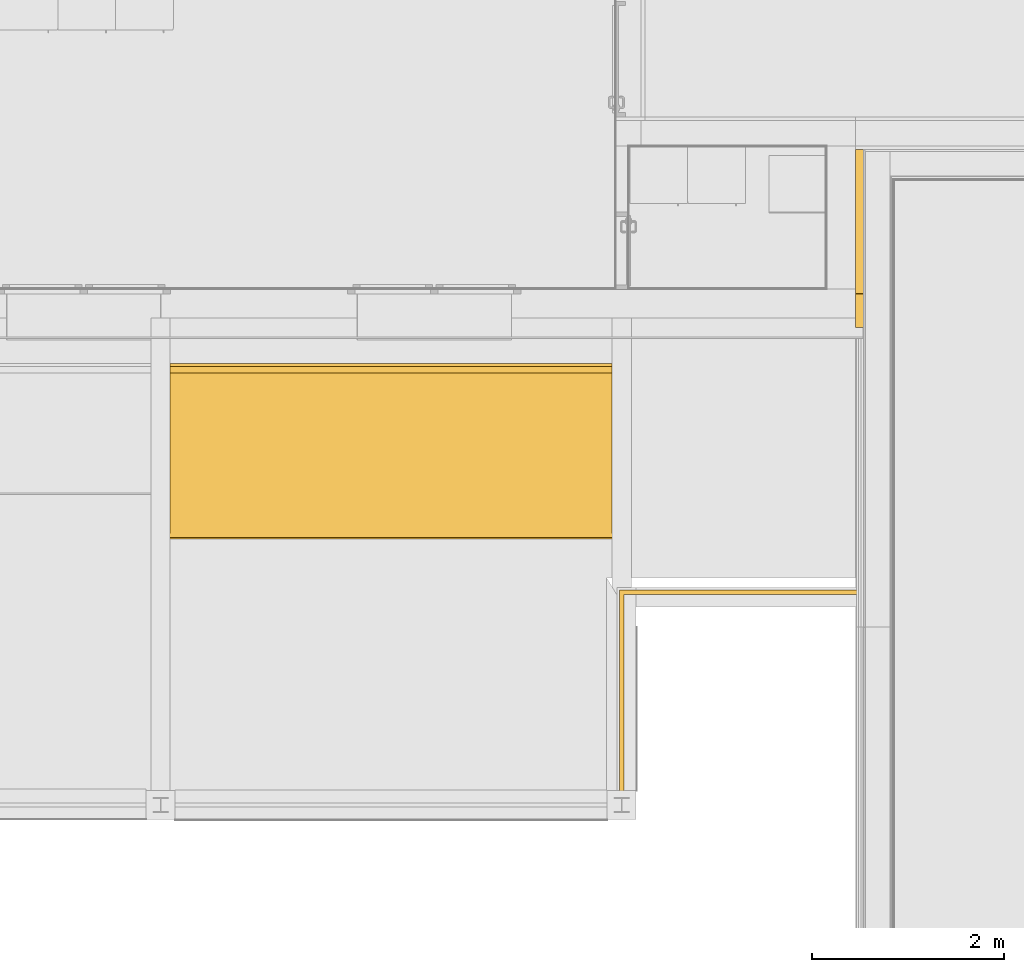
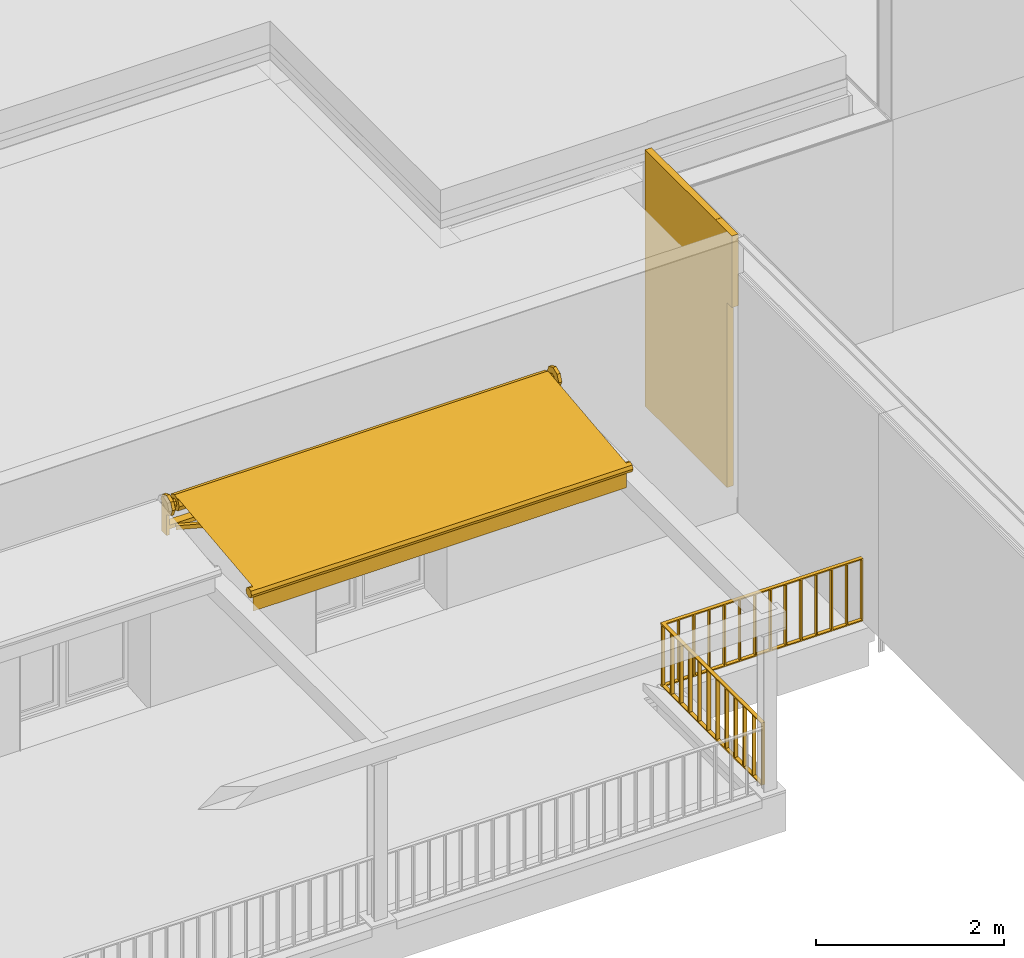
# One storey, part 27 of 36: 1 covering, 1 railing, 1 shading device.
"""IFC4 building model written with IfcOpenShell, lengths in millimetres."""

from ifc_helpers import new_model, entity, si_unit, converted_unit, derived_unit, direction, frame, origin_with_axes, place, context, subcontext, project, spatial, polygons, material, constituent, constituent_set, type_object, element, save


model = new_model("IFC4")

# Units and contexts
model_context = context("Model", 3, precision=0.01, world=origin_with_axes(), true_north=direction((0.0, 1.0)))
body_context = subcontext(model_context, "Body", "Model", "MODEL_VIEW")
ifc_project = project(units=[si_unit("LENGTHUNIT", "METRE", prefix="MILLI"), si_unit("AREAUNIT", "SQUARE_METRE"), si_unit("VOLUMEUNIT", "CUBIC_METRE"), converted_unit("PLANEANGLEUNIT", "DEGREE", entity("IfcPlaneAngleMeasure", 0.0174532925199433), si_unit("PLANEANGLEUNIT", "RADIAN"), dimensions=[0, 0, 0, 0, 0, 0, 0]), converted_unit("TIMEUNIT", "Year", entity("IfcTimeMeasure", 31557600.0), si_unit("TIMEUNIT", "SECOND"), dimensions=[0, 0, 1, 0, 0, 0, 0]), si_unit("MASSUNIT", "GRAM", prefix="KILO"), si_unit("THERMODYNAMICTEMPERATUREUNIT", "DEGREE_CELSIUS"), si_unit("LUMINOUSINTENSITYUNIT", "LUMEN"), si_unit("ENERGYUNIT", "JOULE", prefix="MEGA"), derived_unit("THERMALCONDUCTANCEUNIT", [(si_unit("POWERUNIT", "WATT"), 1), (si_unit("LENGTHUNIT", "METRE"), -1), (si_unit("THERMODYNAMICTEMPERATUREUNIT", "KELVIN"), -1)]), derived_unit("SPECIFICHEATCAPACITYUNIT", [(si_unit("ENERGYUNIT", "JOULE"), 1), (si_unit("MASSUNIT", "GRAM", prefix="KILO"), -1), (si_unit("THERMODYNAMICTEMPERATUREUNIT", "KELVIN"), -1)]), derived_unit("MASSDENSITYUNIT", [(si_unit("MASSUNIT", "GRAM", prefix="KILO"), 1), (si_unit("VOLUMEUNIT", "CUBIC_METRE"), -1)])], contexts=[model_context])

# Site, building, storey
site_placement = place(None, origin_with_axes())
site = spatial("IfcSite", under=ifc_project, at=site_placement, Name="Gelände", CompositionType="ELEMENT")
building_placement = place(site_placement, origin_with_axes())
building = spatial("IfcBuilding", under=site, at=building_placement, Name="Gebäude", CompositionType="ELEMENT")
storey_placement = place(building_placement, frame((0.0, 0.0, 8700.0), z_axis=(0.0, 0.0, 1.0), x_axis=(1.0, 0.0, 0.0)))
storey = spatial("IfcBuildingStorey", under=building, at=storey_placement, Name="Attika", CompositionType="ELEMENT", Elevation=8700.0)

# Railing
ifc_material_1 = material(Name="Stahl")
ifc_constituent_1 = constituent(ifc_material_1, Name="Stahl 1")
ifc_constituent_2 = constituent(ifc_material_1, Name="Stahl 2")
ifc_constituent_3 = constituent(ifc_material_1, Name="Stahl 3")
ifc_constituent_4 = constituent(ifc_material_1, Name="Stahl 4")
ifc_constituent_5 = constituent(ifc_material_1, Name="Stahl 5")
ifc_constituent_6 = constituent(ifc_material_1, Name="Stahl 6")
ifc_constituent_7 = constituent(ifc_material_1, Name="Stahl 7")
ifc_constituent_8 = constituent(ifc_material_1, Name="Stahl 8")
ifc_constituent_9 = constituent(ifc_material_1, Name="Stahl 9")
ifc_constituent_10 = constituent(ifc_material_1, Name="Stahl 10")
ifc_constituent_11 = constituent(ifc_material_1, Name="Stahl 11")
ifc_constituent_12 = constituent(ifc_material_1, Name="Stahl 12")
ifc_constituent_13 = constituent(ifc_material_1, Name="Stahl 13")
ifc_constituent_14 = constituent(ifc_material_1, Name="Stahl 14")
ifc_constituent_15 = constituent(ifc_material_1, Name="Stahl 15")
ifc_constituent_16 = constituent(ifc_material_1, Name="Stahl 16")
ifc_constituent_17 = constituent(ifc_material_1, Name="Stahl 17")
ifc_constituent_18 = constituent(ifc_material_1, Name="Stahl 18")
ifc_constituent_19 = constituent(ifc_material_1, Name="Stahl 19")
ifc_constituent_20 = constituent(ifc_material_1, Name="Stahl 20")
ifc_constituent_21 = constituent(ifc_material_1, Name="Stahl 21")
ifc_constituent_22 = constituent(ifc_material_1, Name="Stahl 22")
ifc_constituent_23 = constituent(ifc_material_1, Name="Stahl 23")
ifc_constituent_24 = constituent(ifc_material_1, Name="Stahl 24")
ifc_constituent_25 = constituent(ifc_material_1, Name="Stahl 25")
ifc_constituent_26 = constituent(ifc_material_1, Name="Stahl 26")
ifc_constituent_27 = constituent(ifc_material_1, Name="Stahl 27")
ifc_constituent_28 = constituent(ifc_material_1, Name="Stahl 28")
ifc_constituent_29 = constituent(ifc_material_1, Name="Stahl 29")
ifc_constituent_30 = constituent(ifc_material_1, Name="Stahl 30")
ifc_constituent_31 = constituent(ifc_material_1, Name="Stahl 31")
ifc_constituent_set = constituent_set(constituents=[ifc_constituent_1, ifc_constituent_2, ifc_constituent_3, ifc_constituent_4, ifc_constituent_5, ifc_constituent_6, ifc_constituent_7, ifc_constituent_8, ifc_constituent_9, ifc_constituent_10, ifc_constituent_11, ifc_constituent_12, ifc_constituent_13, ifc_constituent_14, ifc_constituent_15, ifc_constituent_16, ifc_constituent_17, ifc_constituent_18, ifc_constituent_19, ifc_constituent_20, ifc_constituent_21, ifc_constituent_22, ifc_constituent_23, ifc_constituent_24, ifc_constituent_25, ifc_constituent_26, ifc_constituent_27, ifc_constituent_28, ifc_constituent_29, ifc_constituent_30, ifc_constituent_31])
railing_type = type_object("IfcRailingType", Name="Geländerart", PredefinedType="NOTDEFINED")
railing_placement = place(storey_placement, frame((15487.99581849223, 21105.09674077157, 519.9999999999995), z_axis=(0.0, 0.0, 1.0), x_axis=(1.0, 0.0, 0.0)))
element("IfcRailing", 1, at=railing_placement, inside=storey, type_object=railing_type, material=ifc_constituent_set, Name="Geländer-003", PredefinedType="NOTDEFINED", context=body_context, shape_type="Tessellation", body=[
    polygons([(19.99999999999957, 83.49999999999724, 0.0), (-19.99999999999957, 83.49999999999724, 0.0), (-19.99999999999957, 83.49999999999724, 800.0000000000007), (19.99999999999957, 83.49999999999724, 800.0000000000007), (19.99999999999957, 68.49999999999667, 0.0), (-19.99999999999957, 68.49999999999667, 0.0), (-19.99999999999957, 68.49999999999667, 800.0000000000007), (19.99999999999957, 68.49999999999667, 800.0000000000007)], [[[1, 2, 3, 4]], [[1, 5, 6, 2]], [[2, 6, 7, 3]], [[4, 3, 7, 8]], [[5, 1, 4, 8]], [[6, 5, 8, 7]]], closed=True),
    polygons([(-22.50000000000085, 75.99999999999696, 800.0000000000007), (-22.50000000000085, 75.99999999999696, 785.0000000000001), (-22.50000000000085, 68.49999999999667, 785.0000000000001), (-22.50000000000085, 68.49999999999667, 800.0000000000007), (22.50000000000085, 75.99999999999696, 800.0000000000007), (22.50000000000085, 75.99999999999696, 785.0000000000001), (22.50000000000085, 68.49999999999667, 785.0000000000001), (22.50000000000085, 68.49999999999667, 800.0000000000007)], [[[1, 2, 3, 4]], [[1, 5, 6, 2]], [[2, 6, 7, 3]], [[4, 3, 7, 8]], [[5, 1, 4, 8]], [[6, 5, 8, 7]]], closed=True),
    polygons([(19.9999999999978, 2210.000000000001, 0.0), (-20.00000000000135, 2210.000000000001, 0.0), (-20.00000000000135, 2210.000000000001, 800.0000000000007), (19.9999999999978, 2210.000000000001, 800.0000000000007), (19.9999999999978, 2195.0, 0.0), (-20.00000000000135, 2195.0, 0.0), (-20.00000000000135, 2195.0, 800.0000000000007), (19.9999999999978, 2195.0, 800.0000000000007)], [[[1, 2, 3, 4]], [[1, 5, 6, 2]], [[2, 6, 7, 3]], [[4, 3, 7, 8]], [[5, 1, 4, 8]], [[6, 5, 8, 7]]], closed=True),
    polygons([(2448.501626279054, 2182.500000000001, 0.0), (2448.501626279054, 2222.5, 0.0), (2448.501626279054, 2222.5, 800.0000000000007), (2448.501626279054, 2182.500000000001, 800.0000000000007), (2433.501626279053, 2182.500000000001, 0.0), (2433.501626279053, 2222.5, 0.0), (2433.501626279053, 2222.5, 800.0000000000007), (2433.501626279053, 2182.500000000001, 800.0000000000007)], [[[1, 2, 3, 4]], [[1, 5, 6, 2]], [[2, 6, 7, 3]], [[4, 3, 7, 8]], [[5, 1, 4, 8]], [[6, 5, 8, 7]]], closed=True),
    polygons([(2441.001626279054, 2180.0, 800.0000000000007), (2441.001626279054, 2180.0, 785.0000000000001), (2448.501626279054, 2180.0, 785.0000000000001), (2448.501626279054, 2180.0, 800.0000000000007), (2441.001626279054, 2225.000000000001, 800.0000000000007), (2441.001626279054, 2225.000000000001, 785.0000000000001), (2448.501626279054, 2225.000000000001, 785.0000000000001), (2448.501626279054, 2225.000000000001, 800.0000000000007)], [[[1, 2, 3, 4]], [[1, 5, 6, 2]], [[2, 6, 7, 3]], [[4, 3, 7, 8]], [[5, 1, 4, 8]], [[6, 5, 8, 7]]], closed=True),
    polygons([(22.50000000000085, 75.99999999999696, 0.9999999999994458), (22.50000000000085, 75.99999999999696, -14.00000000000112), (22.49999999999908, 2180.0, -14.00000000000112), (22.49999999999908, 2180.0, 0.9999999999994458), (-22.50000000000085, 75.99999999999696, 0.9999999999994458), (-22.50000000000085, 75.99999999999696, -14.00000000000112), (-22.50000000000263, 2225.000000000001, -14.00000000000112), (-22.50000000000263, 2225.000000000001, 0.9999999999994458)], [[[1, 2, 3, 4]], [[1, 5, 6, 2]], [[2, 6, 7, 3]], [[4, 3, 7, 8]], [[5, 1, 4, 8]], [[6, 5, 8, 7]]], closed=True),
    polygons([(22.50000000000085, 75.99999999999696, 800.0000000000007), (22.50000000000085, 75.99999999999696, 785.0000000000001), (22.49999999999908, 2180.0, 785.0000000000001), (22.49999999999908, 2180.0, 800.0000000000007), (-22.50000000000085, 75.99999999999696, 800.0000000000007), (-22.50000000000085, 75.99999999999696, 785.0000000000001), (-22.50000000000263, 2225.000000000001, 785.0000000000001), (-22.50000000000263, 2225.000000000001, 800.0000000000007)], [[[1, 2, 3, 4]], [[1, 5, 6, 2]], [[2, 6, 7, 3]], [[4, 3, 7, 8]], [[5, 1, 4, 8]], [[6, 5, 8, 7]]], closed=True),
    polygons([(22.50000000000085, 276.8181818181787, 0.0), (-22.50000000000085, 276.8181818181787, 0.0), (-22.50000000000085, 276.8181818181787, 785.2293691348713), (22.49999999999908, 276.8181818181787, 785.2293691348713), (22.50000000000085, 261.8181818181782, 0.0), (-22.50000000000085, 261.8181818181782, 0.0), (-22.50000000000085, 261.8181818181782, 785.2293691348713), (22.50000000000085, 261.8181818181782, 785.2293691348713)], [[[1, 2, 3, 4]], [[1, 5, 6, 2]], [[2, 6, 7, 3]], [[4, 3, 7, 8]], [[5, 1, 4, 8]], [[6, 5, 8, 7]]], closed=True),
    polygons([(22.50000000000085, 470.1363636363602, 0.0), (-22.50000000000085, 470.1363636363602, 0.0), (-22.50000000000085, 470.1363636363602, 785.2293691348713), (22.49999999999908, 470.1363636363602, 785.2293691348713), (22.50000000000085, 455.1363636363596, 0.0), (-22.50000000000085, 455.1363636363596, 0.0), (-22.50000000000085, 455.1363636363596, 785.2293691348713), (22.50000000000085, 455.1363636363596, 785.2293691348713)], [[[1, 2, 3, 4]], [[1, 5, 6, 2]], [[2, 6, 7, 3]], [[4, 3, 7, 8]], [[5, 1, 4, 8]], [[6, 5, 8, 7]]], closed=True),
    polygons([(22.50000000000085, 663.4545454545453, 0.0), (-22.50000000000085, 663.4545454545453, 0.0), (-22.50000000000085, 663.4545454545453, 785.2293691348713), (22.49999999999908, 663.4545454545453, 785.2293691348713), (22.50000000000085, 648.4545454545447, 0.0), (-22.50000000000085, 648.4545454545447, 0.0), (-22.50000000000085, 648.4545454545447, 785.2293691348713), (22.50000000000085, 648.4545454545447, 785.2293691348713)], [[[1, 2, 3, 4]], [[1, 5, 6, 2]], [[2, 6, 7, 3]], [[4, 3, 7, 8]], [[5, 1, 4, 8]], [[6, 5, 8, 7]]], closed=True),
    polygons([(22.50000000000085, 856.7727272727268, 0.0), (-22.50000000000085, 856.7727272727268, 0.0), (-22.50000000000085, 856.7727272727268, 785.2293691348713), (22.49999999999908, 856.7727272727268, 785.2293691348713), (22.50000000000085, 841.7727272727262, 0.0), (-22.50000000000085, 841.7727272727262, 0.0), (-22.50000000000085, 841.7727272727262, 785.2293691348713), (22.50000000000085, 841.7727272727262, 785.2293691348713)], [[[1, 2, 3, 4]], [[1, 5, 6, 2]], [[2, 6, 7, 3]], [[4, 3, 7, 8]], [[5, 1, 4, 8]], [[6, 5, 8, 7]]], closed=True),
    polygons([(22.50000000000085, 1050.090909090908, 0.0), (-22.50000000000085, 1050.090909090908, 0.0), (-22.50000000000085, 1050.090909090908, 785.2293691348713), (22.49999999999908, 1050.090909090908, 785.2293691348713), (22.50000000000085, 1035.090909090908, 0.0), (-22.50000000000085, 1035.090909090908, 0.0), (-22.50000000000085, 1035.090909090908, 785.2293691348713), (22.50000000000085, 1035.090909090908, 785.2293691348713)], [[[1, 2, 3, 4]], [[1, 5, 6, 2]], [[2, 6, 7, 3]], [[4, 3, 7, 8]], [[5, 1, 4, 8]], [[6, 5, 8, 7]]], closed=True),
    polygons([(22.49999999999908, 1243.40909090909, 0.0), (-22.50000000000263, 1243.40909090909, 0.0), (-22.50000000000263, 1243.40909090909, 785.2293691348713), (22.4999999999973, 1243.40909090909, 785.2293691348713), (22.49999999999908, 1228.409090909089, 0.0), (-22.50000000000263, 1228.409090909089, 0.0), (-22.50000000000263, 1228.409090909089, 785.2293691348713), (22.4999999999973, 1228.409090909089, 785.2293691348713)], [[[1, 2, 3, 4]], [[1, 5, 6, 2]], [[2, 6, 7, 3]], [[4, 3, 7, 8]], [[5, 1, 4, 8]], [[6, 5, 8, 7]]], closed=True),
    polygons([(22.49999999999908, 1436.727272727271, 0.0), (-22.50000000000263, 1436.727272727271, 0.0), (-22.50000000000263, 1436.727272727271, 785.2293691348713), (22.4999999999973, 1436.727272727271, 785.2293691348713), (22.49999999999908, 1421.727272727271, 0.0), (-22.50000000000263, 1421.727272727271, 0.0), (-22.50000000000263, 1421.727272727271, 785.2293691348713), (22.4999999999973, 1421.727272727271, 785.2293691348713)], [[[1, 2, 3, 4]], [[1, 5, 6, 2]], [[2, 6, 7, 3]], [[4, 3, 7, 8]], [[5, 1, 4, 8]], [[6, 5, 8, 7]]], closed=True),
    polygons([(22.49999999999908, 1630.045454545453, 0.0), (-22.50000000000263, 1630.045454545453, 0.0), (-22.50000000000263, 1630.045454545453, 785.2293691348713), (22.4999999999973, 1630.045454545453, 785.2293691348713), (22.49999999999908, 1615.045454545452, 0.0), (-22.50000000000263, 1615.045454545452, 0.0), (-22.50000000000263, 1615.045454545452, 785.2293691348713), (22.4999999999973, 1615.045454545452, 785.2293691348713)], [[[1, 2, 3, 4]], [[1, 5, 6, 2]], [[2, 6, 7, 3]], [[4, 3, 7, 8]], [[5, 1, 4, 8]], [[6, 5, 8, 7]]], closed=True),
    polygons([(22.49999999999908, 1823.363636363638, 0.0), (-22.50000000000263, 1823.363636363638, 0.0), (-22.50000000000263, 1823.363636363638, 785.2293691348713), (22.4999999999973, 1823.363636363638, 785.2293691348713), (22.49999999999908, 1808.363636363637, 0.0), (-22.50000000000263, 1808.363636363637, 0.0), (-22.50000000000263, 1808.363636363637, 785.2293691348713), (22.4999999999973, 1808.363636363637, 785.2293691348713)], [[[1, 2, 3, 4]], [[1, 5, 6, 2]], [[2, 6, 7, 3]], [[4, 3, 7, 8]], [[5, 1, 4, 8]], [[6, 5, 8, 7]]], closed=True),
    polygons([(22.49999999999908, 2016.681818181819, 0.0), (-22.50000000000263, 2016.681818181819, 0.0), (-22.50000000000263, 2016.681818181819, 785.2293691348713), (22.4999999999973, 2016.681818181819, 785.2293691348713), (22.49999999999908, 2001.681818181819, 0.0), (-22.50000000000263, 2001.681818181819, 0.0), (-22.50000000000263, 2001.681818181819, 785.2293691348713), (22.4999999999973, 2001.681818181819, 785.2293691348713)], [[[1, 2, 3, 4]], [[1, 5, 6, 2]], [[2, 6, 7, 3]], [[4, 3, 7, 8]], [[5, 1, 4, 8]], [[6, 5, 8, 7]]], closed=True),
    polygons([(22.49999999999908, 2180.0, 0.9999999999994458), (22.49999999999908, 2180.0, -14.00000000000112), (2441.001626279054, 2180.0, -14.00000000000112), (2441.001626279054, 2180.0, 0.9999999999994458), (-22.50000000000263, 2225.000000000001, 0.9999999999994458), (-22.50000000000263, 2225.000000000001, -14.00000000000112), (2441.001626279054, 2225.000000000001, -14.00000000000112), (2441.001626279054, 2225.000000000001, 0.9999999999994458)], [[[1, 2, 3, 4]], [[1, 5, 6, 2]], [[2, 6, 7, 3]], [[4, 3, 7, 8]], [[5, 1, 4, 8]], [[6, 5, 8, 7]]], closed=True),
    polygons([(22.49999999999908, 2180.0, 800.0000000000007), (22.49999999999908, 2180.0, 785.0000000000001), (2441.001626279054, 2180.0, 785.0000000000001), (2441.001626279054, 2180.0, 800.0000000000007), (-22.50000000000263, 2225.000000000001, 800.0000000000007), (-22.50000000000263, 2225.000000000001, 785.0000000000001), (2441.001626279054, 2225.000000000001, 785.0000000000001), (2441.001626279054, 2225.000000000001, 800.0000000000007)], [[[1, 2, 3, 4]], [[1, 5, 6, 2]], [[2, 6, 7, 3]], [[4, 3, 7, 8]], [[5, 1, 4, 8]], [[6, 5, 8, 7]]], closed=True),
    polygons([(195.2693558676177, 2180.0, 0.0), (195.2693558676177, 2225.000000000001, 0.0), (195.2693558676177, 2225.000000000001, 785.2293691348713), (195.2693558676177, 2180.0, 785.2293691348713), (180.2693558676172, 2180.0, 0.0), (180.2693558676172, 2225.000000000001, 0.0), (180.2693558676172, 2225.000000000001, 785.2293691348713), (180.2693558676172, 2180.0, 785.2293691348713)], [[[1, 2, 3, 4]], [[1, 5, 6, 2]], [[2, 6, 7, 3]], [[4, 3, 7, 8]], [[5, 1, 4, 8]], [[6, 5, 8, 7]]], closed=True),
    polygons([(383.038711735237, 2180.0, 0.0), (383.038711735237, 2225.000000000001, 0.0), (383.038711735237, 2225.000000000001, 785.2293691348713), (383.038711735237, 2180.0, 785.2293691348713), (368.0387117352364, 2180.0, 0.0), (368.0387117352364, 2225.000000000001, 0.0), (368.0387117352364, 2225.000000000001, 785.2293691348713), (368.0387117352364, 2180.0, 785.2293691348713)], [[[1, 2, 3, 4]], [[1, 5, 6, 2]], [[2, 6, 7, 3]], [[4, 3, 7, 8]], [[5, 1, 4, 8]], [[6, 5, 8, 7]]], closed=True),
    polygons([(570.8080676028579, 2180.0, 0.0), (570.8080676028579, 2225.000000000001, 0.0), (570.8080676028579, 2225.000000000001, 785.2293691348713), (570.8080676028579, 2180.0, 785.2293691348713), (555.8080676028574, 2180.0, 0.0), (555.8080676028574, 2225.000000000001, 0.0), (555.8080676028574, 2225.000000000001, 785.2293691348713), (555.8080676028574, 2180.0, 785.2293691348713)], [[[1, 2, 3, 4]], [[1, 5, 6, 2]], [[2, 6, 7, 3]], [[4, 3, 7, 8]], [[5, 1, 4, 8]], [[6, 5, 8, 7]]], closed=True),
    polygons([(758.5774234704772, 2180.0, 0.0), (758.5774234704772, 2225.000000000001, 0.0), (758.5774234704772, 2225.000000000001, 785.2293691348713), (758.5774234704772, 2180.0, 785.2293691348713), (743.5774234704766, 2180.0, 0.0), (743.5774234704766, 2225.000000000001, 0.0), (743.5774234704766, 2225.000000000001, 785.2293691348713), (743.5774234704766, 2180.0, 785.2293691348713)], [[[1, 2, 3, 4]], [[1, 5, 6, 2]], [[2, 6, 7, 3]], [[4, 3, 7, 8]], [[5, 1, 4, 8]], [[6, 5, 8, 7]]], closed=True),
    polygons([(946.3467793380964, 2180.0, 0.0), (946.3467793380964, 2225.000000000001, 0.0), (946.3467793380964, 2225.000000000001, 785.2293691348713), (946.3467793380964, 2180.0, 785.2293691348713), (931.3467793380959, 2180.0, 0.0), (931.3467793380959, 2225.000000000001, 0.0), (931.3467793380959, 2225.000000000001, 785.2293691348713), (931.3467793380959, 2180.0, 785.2293691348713)], [[[1, 2, 3, 4]], [[1, 5, 6, 2]], [[2, 6, 7, 3]], [[4, 3, 7, 8]], [[5, 1, 4, 8]], [[6, 5, 8, 7]]], closed=True),
    polygons([(1134.116135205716, 2180.0, 0.0), (1134.116135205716, 2225.000000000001, 0.0), (1134.116135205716, 2225.000000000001, 785.2293691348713), (1134.116135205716, 2180.0, 785.2293691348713), (1119.116135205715, 2180.0, 0.0), (1119.116135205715, 2225.000000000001, 0.0), (1119.116135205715, 2225.000000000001, 785.2293691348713), (1119.116135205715, 2180.0, 785.2293691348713)], [[[1, 2, 3, 4]], [[1, 5, 6, 2]], [[2, 6, 7, 3]], [[4, 3, 7, 8]], [[5, 1, 4, 8]], [[6, 5, 8, 7]]], closed=True),
    polygons([(1321.885491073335, 2180.0, 0.0), (1321.885491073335, 2225.000000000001, 0.0), (1321.885491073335, 2225.000000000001, 785.2293691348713), (1321.885491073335, 2180.0, 785.2293691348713), (1306.885491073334, 2180.0, 0.0), (1306.885491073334, 2225.000000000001, 0.0), (1306.885491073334, 2225.000000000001, 785.2293691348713), (1306.885491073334, 2180.0, 785.2293691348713)], [[[1, 2, 3, 4]], [[1, 5, 6, 2]], [[2, 6, 7, 3]], [[4, 3, 7, 8]], [[5, 1, 4, 8]], [[6, 5, 8, 7]]], closed=True),
    polygons([(1509.654846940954, 2180.0, 0.0), (1509.654846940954, 2225.000000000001, 0.0), (1509.654846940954, 2225.000000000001, 785.2293691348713), (1509.654846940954, 2180.0, 785.2293691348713), (1494.654846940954, 2180.0, 0.0), (1494.654846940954, 2225.000000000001, 0.0), (1494.654846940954, 2225.000000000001, 785.2293691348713), (1494.654846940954, 2180.0, 785.2293691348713)], [[[1, 2, 3, 4]], [[1, 5, 6, 2]], [[2, 6, 7, 3]], [[4, 3, 7, 8]], [[5, 1, 4, 8]], [[6, 5, 8, 7]]], closed=True),
    polygons([(1697.424202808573, 2180.0, 0.0), (1697.424202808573, 2225.000000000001, 0.0), (1697.424202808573, 2225.000000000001, 785.2293691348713), (1697.424202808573, 2180.0, 785.2293691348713), (1682.424202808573, 2180.0, 0.0), (1682.424202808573, 2225.000000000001, 0.0), (1682.424202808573, 2225.000000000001, 785.2293691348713), (1682.424202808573, 2180.0, 785.2293691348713)], [[[1, 2, 3, 4]], [[1, 5, 6, 2]], [[2, 6, 7, 3]], [[4, 3, 7, 8]], [[5, 1, 4, 8]], [[6, 5, 8, 7]]], closed=True),
    polygons([(1885.193558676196, 2180.0, 0.0), (1885.193558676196, 2225.000000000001, 0.0), (1885.193558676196, 2225.000000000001, 785.2293691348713), (1885.193558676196, 2180.0, 785.2293691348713), (1870.193558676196, 2180.0, 0.0), (1870.193558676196, 2225.000000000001, 0.0), (1870.193558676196, 2225.000000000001, 785.2293691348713), (1870.193558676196, 2180.0, 785.2293691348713)], [[[1, 2, 3, 4]], [[1, 5, 6, 2]], [[2, 6, 7, 3]], [[4, 3, 7, 8]], [[5, 1, 4, 8]], [[6, 5, 8, 7]]], closed=True),
    polygons([(2072.962914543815, 2180.0, 0.0), (2072.962914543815, 2225.000000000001, 0.0), (2072.962914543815, 2225.000000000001, 785.2293691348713), (2072.962914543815, 2180.0, 785.2293691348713), (2057.962914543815, 2180.0, 0.0), (2057.962914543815, 2225.000000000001, 0.0), (2057.962914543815, 2225.000000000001, 785.2293691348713), (2057.962914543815, 2180.0, 785.2293691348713)], [[[1, 2, 3, 4]], [[1, 5, 6, 2]], [[2, 6, 7, 3]], [[4, 3, 7, 8]], [[5, 1, 4, 8]], [[6, 5, 8, 7]]], closed=True),
    polygons([(2260.732270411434, 2180.0, 0.0), (2260.732270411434, 2225.000000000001, 0.0), (2260.732270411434, 2225.000000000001, 785.2293691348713), (2260.732270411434, 2180.0, 785.2293691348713), (2245.732270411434, 2180.0, 0.0), (2245.732270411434, 2225.000000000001, 0.0), (2245.732270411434, 2225.000000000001, 785.2293691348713), (2245.732270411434, 2180.0, 785.2293691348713)], [[[1, 2, 3, 4]], [[1, 5, 6, 2]], [[2, 6, 7, 3]], [[4, 3, 7, 8]], [[5, 1, 4, 8]], [[6, 5, 8, 7]]], closed=True),
])

# Covering
ifc_material_2 = material(Name="Dämmung-Innen")
covering_type = type_object("IfcCoveringType", Name="Dämmung-Innen 80", PredefinedType="NOTDEFINED")
covering_placement = place(storey_placement, frame((17919.99744477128, 27907.59728131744, 499.9999480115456), z_axis=(0.0, 0.0, 1.0), x_axis=(0.0, -1.0, 0.0)))
element("IfcCovering", 2, at=covering_placement, inside=storey, type_object=covering_type, material=ifc_material_2, Name="Wand-014", PredefinedType="NOTDEFINED", context=body_context, shape_type="Tessellation", body=[
    polygons([(0.0, 0.0, 3331.000051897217), (1497.300449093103, 0.0, 3331.000051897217), (1497.300449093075, 79.99999999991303, 3331.000051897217), (0.0, 80.00000000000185, 3331.000051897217), (1500.000452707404, 0.0, 3233.526807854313), (1497.300408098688, 0.0, 3233.526807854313), (0.0, 0.0, 0.0), (1750.000540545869, 0.0, 0.0), (1750.000540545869, 0.0, 2400.000051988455), (1850.000540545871, 0.0, 2400.000051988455), (1850.000540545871, 0.0, 3331.000051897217), (1500.000543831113, 0.0, 3331.000053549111), (1497.30040809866, 79.99999999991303, 3233.526807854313), (1500.000452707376, 79.99999999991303, 3233.526807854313), (1500.000543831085, 79.99999999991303, 3331.000053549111), (1850.000540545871, 79.9999999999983, 3331.000051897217), (1850.000540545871, 80.00000000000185, 2400.000051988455), (1750.000540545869, 80.00000000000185, 2400.000051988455), (1750.000540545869, 79.9999999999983, 0.0), (0.0, 79.9999999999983, 0.0)], [[[1, 2, 3, 4]], [[5, 6, 2, 1, 7, 8, 9, 10, 11, 12]], [[6, 13, 3, 2]], [[13, 14, 15, 16, 17, 18, 19, 20, 4, 3]], [[1, 4, 20, 7]], [[5, 14, 13, 6]], [[8, 7, 20, 19]], [[18, 9, 8, 19]], [[17, 10, 9, 18]], [[17, 16, 11, 10]], [[16, 15, 12, 11]], [[5, 12, 15, 14]]], closed=True),
])

# Shading device
shading_device_type = type_object("IfcShadingDeviceType", Name="Sonnensegel 27", PredefinedType="NOTDEFINED")
shading_device_placement = place(storey_placement, frame((10697.19581849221, 25686.08652644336, 2849.999999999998), z_axis=(0.0, 0.0, 1.0), x_axis=(1.0, 0.0, 0.0)))
element("IfcShadingDevice", 3, at=shading_device_placement, inside=storey, type_object=shading_device_type, Name="Möbel-018", PredefinedType="NOTDEFINED", context=body_context, shape_type="Tessellation", body=[
    polygons([(4740.79999999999, -135.3553390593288, 335.3553390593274), (50.0, -135.3553390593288, 335.3553390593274), (50.0, -150.0000000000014, 300.0), (4740.79999999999, -150.0000000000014, 300.0), (4740.79999999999, -100.0000000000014, 350.0), (50.0, -100.0000000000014, 350.0), (50.0, -64.64466094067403, 335.3553390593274), (50.0, -50.00000000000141, 300.0), (50.0, -64.64466094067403, 264.6446609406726), (50.0, -100.0000000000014, 250.0), (50.0, -135.3553390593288, 264.6446609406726), (4740.79999999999, -135.3553390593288, 264.6446609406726), (4740.79999999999, -100.0000000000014, 250.0), (4740.79999999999, -64.64466094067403, 264.6446609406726), (4740.79999999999, -50.00000000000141, 300.0), (4740.79999999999, -64.64466094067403, 335.3553390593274)], [[[1, 2, 3, 4]], [[5, 6, 2, 1]], [[3, 2, 6, 7, 8, 9, 10, 11]], [[4, 3, 11, 12]], [[4, 12, 13, 14, 15, 16, 5, 1]], [[16, 7, 6, 5]], [[15, 8, 7, 16]], [[14, 9, 8, 15]], [[13, 10, 9, 14]], [[12, 11, 10, 13]]], closed=True),
    polygons([(4690.79999999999, -170.7106781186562, 370.7106781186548), (100.0, -170.7106781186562, 370.7106781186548), (100.0, -200.0000000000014, 300.0), (4690.79999999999, -200.0000000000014, 300.0), (4690.79999999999, -100.0000000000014, 400.0), (100.0, -100.0000000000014, 400.0), (100.0, -29.28932188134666, 370.7106781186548), (100.0, 0.0, 300.0), (100.0, -29.28932188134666, 229.2893218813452), (100.0, -100.0000000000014, 199.9999999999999), (100.0, -170.7106781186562, 229.2893218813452), (4690.79999999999, -170.7106781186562, 229.2893218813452), (4690.79999999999, -100.0000000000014, 199.9999999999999), (4690.79999999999, -29.28932188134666, 229.2893218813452), (4690.79999999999, 0.0, 300.0), (4690.79999999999, -29.28932188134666, 370.7106781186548)], [[[1, 2, 3, 4]], [[5, 6, 2, 1]], [[3, 2, 6, 7, 8, 9, 10, 11]], [[4, 3, 11, 12]], [[4, 12, 13, 14, 15, 16, 5, 1]], [[16, 7, 6, 5]], [[15, 8, 7, 16]], [[14, 9, 8, 15]], [[13, 10, 9, 14]], [[12, 11, 10, 13]]], closed=True),
    polygons([(4690.79999999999, -111.1156586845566, 399.3802904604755), (4690.79999999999, -1768.75997034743, 213.9732212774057), (100.0, -1768.75997034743, 213.9732212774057), (100.0, -111.1156586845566, 399.3802904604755)], [[[1, 2, 3, 4]]], closed=False),
    polygons([(4690.79999999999, -1766.359885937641, 214.2124006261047), (4690.79999999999, -1766.359885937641, -105.7875993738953), (100.0, -1766.359885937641, -105.7875993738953), (100.0, -1766.359885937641, 214.2124006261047)], [[[1, 2, 3, 4]]], closed=False),
    polygons([(50.0, -1723.933479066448, 111.7859937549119), (50.00000000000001, -1766.359885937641, 94.21240062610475), (50.0, -1808.786292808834, 111.7859937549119), (50.0, -1826.359885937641, 154.2124006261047), (50.0, -1808.786292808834, 196.6388074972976), (49.99999999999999, -1766.359885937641, 214.2124006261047), (50.0, -1723.933479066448, 196.6388074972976), (50.0, -1706.359885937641, 154.2124006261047), (4740.799999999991, -1723.933479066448, 111.7859937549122), (4740.799999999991, -1766.359885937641, 94.21240062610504), (4740.799999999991, -1808.786292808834, 111.7859937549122), (4740.799999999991, -1826.359885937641, 154.212400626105), (4740.799999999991, -1808.786292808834, 196.6388074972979), (4740.799999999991, -1766.359885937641, 214.2124006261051), (4740.799999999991, -1723.933479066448, 196.6388074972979), (4740.799999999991, -1706.359885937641, 154.212400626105)], [[[1, 2, 3, 4, 5, 6, 7, 8]], [[1, 9, 10, 2]], [[2, 10, 11, 3]], [[3, 11, 12, 4]], [[4, 12, 13, 5]], [[5, 13, 14, 6]], [[6, 14, 15, 7]], [[7, 15, 16, 8]], [[8, 16, 9, 1]], [[9, 16, 15, 14, 13, 12, 11, 10]]], closed=True),
    polygons([(4750.799999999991, 0.0, -25.0), (4750.799999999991, -100.0000000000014, -25.0), (40.0, -100.0000000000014, -25.0), (40.0, 0.0, -25.0), (4750.799999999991, 0.0, 25.0), (4750.799999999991, -100.0000000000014, 25.0), (40.0, -100.0000000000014, 25.0), (40.0, 0.0, 25.0)], [[[1, 2, 3, 4]], [[1, 5, 6, 2]], [[2, 6, 7, 3]], [[3, 7, 8, 4]], [[4, 8, 5, 1]], [[8, 7, 6, 5]]], closed=True),
    polygons([(4701.583212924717, -147.4516511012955, 27.15538438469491), (3013.875710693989, -950.6315940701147, 104.2615846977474), (3013.875710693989, -955.4096842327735, 54.49040976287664), (4701.583212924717, -152.2297412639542, -22.61579055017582), (4680.016787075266, -102.5483488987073, 22.84461561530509), (2992.309284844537, -905.7282918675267, 99.95081592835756), (2992.309284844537, -910.5063820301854, 50.17964099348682), (4680.016787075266, -107.3264390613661, -26.92655931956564)], [[[1, 2, 3, 4]], [[5, 6, 2, 1]], [[2, 6, 7, 3]], [[4, 3, 7, 8]], [[1, 4, 8, 5]], [[8, 7, 6, 5]]], closed=True),
    polygons([(110.7832129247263, -102.5483488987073, 22.84461561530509), (1798.490715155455, -905.7282918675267, 99.95081592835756), (1798.490715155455, -910.5063820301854, 50.17964099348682), (110.7832129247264, -107.3264390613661, -26.92655931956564), (89.21678707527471, -147.4516511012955, 27.15538438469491), (1776.924289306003, -950.6315940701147, 104.2615846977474), (1776.924289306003, -955.4096842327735, 54.49040976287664), (89.21678707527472, -152.2297412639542, -22.61579055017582)], [[[1, 2, 3, 4]], [[5, 6, 2, 1]], [[2, 6, 7, 3]], [[4, 3, 7, 8]], [[1, 4, 8, 5]], [[8, 7, 6, 5]]], closed=True),
    polygons([(1798.490715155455, -950.6315940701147, 104.2615846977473), (110.7832129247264, -1753.811537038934, 181.3677850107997), (110.7832129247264, -1758.589627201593, 131.596610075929), (1798.490715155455, -955.4096842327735, 54.49040976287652), (1776.924289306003, -905.7282918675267, 99.95081592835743), (89.2167870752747, -1708.908234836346, 177.0570162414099), (89.2167870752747, -1713.686324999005, 127.2858413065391), (1776.924289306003, -910.5063820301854, 50.17964099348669)], [[[1, 2, 3, 4]], [[5, 6, 2, 1]], [[2, 6, 7, 3]], [[4, 3, 7, 8]], [[1, 4, 8, 5]], [[8, 7, 6, 5]]], closed=True),
    polygons([(3013.875710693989, -905.7282918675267, 99.95081592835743), (4701.583212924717, -1708.908234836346, 177.0570162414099), (4701.583212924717, -1713.686324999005, 127.2858413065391), (3013.875710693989, -910.5063820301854, 50.17964099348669), (2992.309284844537, -950.6315940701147, 104.2615846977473), (4680.016787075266, -1753.811537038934, 181.3677850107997), (4680.016787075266, -1758.589627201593, 131.596610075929), (2992.309284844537, -955.4096842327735, 54.49040976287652)], [[[1, 2, 3, 4]], [[5, 6, 2, 1]], [[2, 6, 7, 3]], [[4, 3, 7, 8]], [[1, 4, 8, 5]], [[8, 7, 6, 5]]], closed=True),
    polygons([(0.0, -100.0000000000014, -100.0), (40.00000000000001, -100.0000000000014, -100.0), (39.99999999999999, -100.0000000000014, 175.0), (0.0, -100.0000000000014, 175.0), (0.0, 0.0, -100.0), (40.0, 0.0, -100.0), (39.99999999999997, 0.0, 300.0000000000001), (39.99999999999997, 24.99999999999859, 300.0000000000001), (39.99999999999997, -11.61165235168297, 388.3883476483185), (39.99999999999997, -100.0000000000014, 425.0000000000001), (39.99999999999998, -188.3883476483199, 388.3883476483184), (39.99999999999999, -225.0000000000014, 300.0000000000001), (39.99999999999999, -188.3883476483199, 211.6116523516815), (0.0, -188.3883476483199, 211.6116523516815), (0.0, -225.0000000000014, 300.0000000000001), (0.0, -188.3883476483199, 388.3883476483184), (0.0, -100.0000000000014, 425.0000000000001), (0.0, -11.61165235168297, 388.3883476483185), (0.0, 24.99999999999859, 300.0000000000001), (0.0, 0.0, 300.0000000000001)], [[[1, 2, 3, 4]], [[5, 6, 2, 1]], [[2, 6, 7, 8, 9, 10, 11, 12, 13, 3]], [[4, 3, 13, 14]], [[1, 4, 14, 15, 16, 17, 18, 19, 20, 5]], [[20, 7, 6, 5]], [[19, 8, 7, 20]], [[18, 9, 8, 19]], [[17, 10, 9, 18]], [[16, 11, 10, 17]], [[15, 12, 11, 16]], [[14, 13, 12, 15]]], closed=True),
    polygons([(4750.799999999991, -100.0000000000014, -100.0), (4790.799999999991, -100.0000000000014, -100.0), (4790.799999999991, -100.0000000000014, 175.0), (4750.799999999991, -100.0000000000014, 175.0), (4750.799999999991, 0.0, -100.0), (4790.799999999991, 0.0, -100.0), (4790.799999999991, 0.0, 300.0000000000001), (4790.799999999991, 24.99999999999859, 300.0000000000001), (4790.799999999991, -11.61165235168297, 388.3883476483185), (4790.799999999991, -100.0000000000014, 425.0000000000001), (4790.799999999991, -188.3883476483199, 388.3883476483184), (4790.799999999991, -225.0000000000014, 300.0000000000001), (4790.799999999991, -188.3883476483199, 211.6116523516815), (4750.799999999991, -188.3883476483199, 211.6116523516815), (4750.799999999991, -225.0000000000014, 300.0000000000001), (4750.799999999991, -188.3883476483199, 388.3883476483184), (4750.799999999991, -100.0000000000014, 425.0000000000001), (4750.799999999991, -11.61165235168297, 388.3883476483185), (4750.799999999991, 24.99999999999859, 300.0000000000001), (4750.799999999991, 0.0, 300.0000000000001)], [[[1, 2, 3, 4]], [[5, 6, 2, 1]], [[2, 6, 7, 8, 9, 10, 11, 12, 13, 3]], [[4, 3, 13, 14]], [[1, 4, 14, 15, 16, 17, 18, 19, 20, 5]], [[20, 7, 6, 5]], [[19, 8, 7, 20]], [[18, 9, 8, 19]], [[17, 10, 9, 18]], [[16, 11, 10, 17]], [[15, 12, 11, 16]], [[14, 13, 12, 15]]], closed=True),
])

save(model, "model.ifc")
